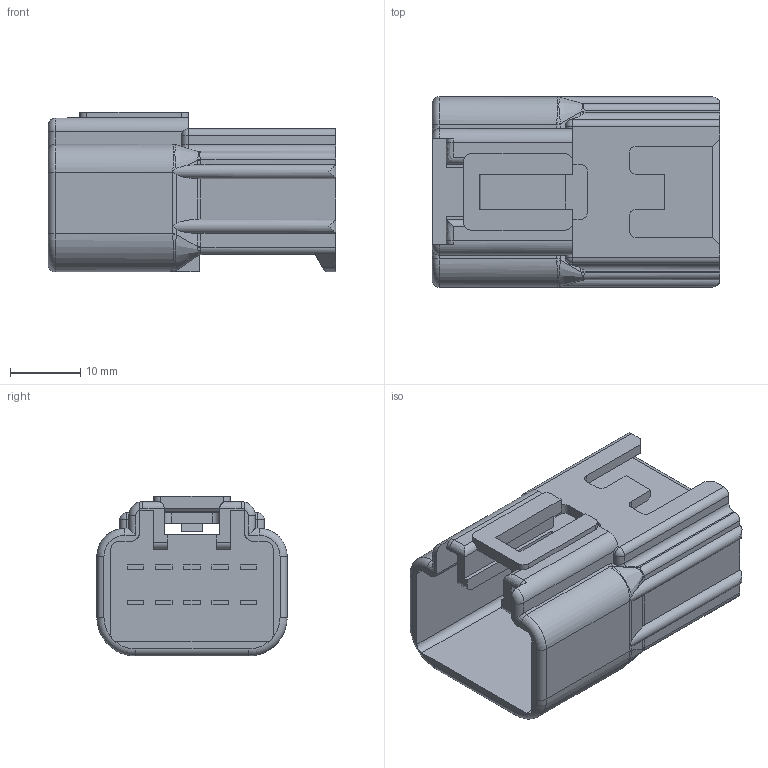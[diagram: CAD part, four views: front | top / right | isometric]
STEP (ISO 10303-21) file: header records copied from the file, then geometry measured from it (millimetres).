
FILE_DESCRIPTION(('CATIA V5 STEP Exchange'),'2;1');
FILE_NAME('N:\C-DAM_MyDesk\ENV\11093U\1設\6249-1235.stp','2013-02-28T04:40:48+00:00',('none'),('none'),'CATIA Version 5 Release 20 SP 4 (IN-10)','CATIA V5 STEP AP203','none');
FILE_SCHEMA(('CONFIG_CONTROL_DESIGN'));
Length unit declared in the file: millimetre
Products named in the file (1): 6249-1235
Bounding box: 41 x 27.1 x 22.8 mm (x, y, z)
Volume: 11864 mm3; surface area: 7226.3 mm2
Topology: 1 solids, 1 shells, 325 faces, 861 edges, 552 vertices
Faces by surface type: plane 205, cylinder 67, bspline 41, torus 10, sphere 2
Entity records: 11564 total; most frequent: CARTESIAN_POINT 4223, ORIENTED_EDGE 1718, DIRECTION 1124, EDGE_CURVE 859, VECTOR 596, LINE 596, VERTEX_POINT 552, EDGE_LOOP 345
